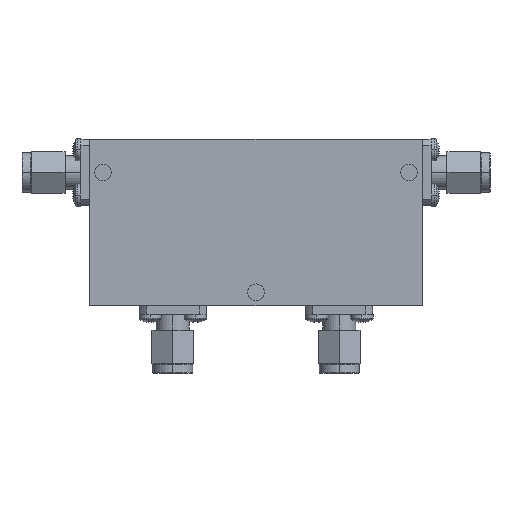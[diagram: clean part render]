
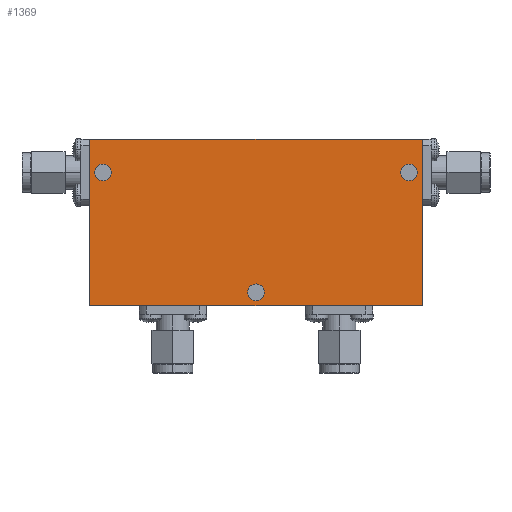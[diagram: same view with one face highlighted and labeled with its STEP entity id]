
A CAD part, top view. The second image highlights one B-rep face of the part: STEP entity #1369.
In plain terms, the highlighted planar face has unit normal (0, 0, 1).
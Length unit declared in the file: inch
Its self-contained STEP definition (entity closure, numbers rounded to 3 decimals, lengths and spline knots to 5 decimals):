
#67 = EDGE_CURVE ( 'NONE', #2055, #3254, #2197, .T. ) ;
#154 = DIRECTION ( 'NONE',  ( 0., 0., 1. ) ) ;
#159 = CARTESIAN_POINT ( 'NONE',  ( -1.25, 0.625, 0.35 ) ) ;
#160 = EDGE_CURVE ( 'NONE', #3124, #1362, #921, .T. ) ;
#162 = CARTESIAN_POINT ( 'NONE',  ( -1.15, 0.375, 0.35 ) ) ;
#227 = EDGE_CURVE ( 'NONE', #345, #2055, #2802, .T. ) ;
#339 = ORIENTED_EDGE ( 'NONE', *, *, #3095, .F. ) ;
#340 = CIRCLE ( 'NONE', #1740, 0.0625 ) ;
#345 = VERTEX_POINT ( 'NONE', #2765 ) ;
#360 = VERTEX_POINT ( 'NONE', #2000 ) ;
#437 = CARTESIAN_POINT ( 'NONE',  ( 1.15, 0.375, 0.35 ) ) ;
#452 = CARTESIAN_POINT ( 'NONE',  ( 1.2125, 0.375, 0.35 ) ) ;
#500 = DIRECTION ( 'NONE',  ( 0., -1., 0. ) ) ;
#599 = EDGE_CURVE ( 'NONE', #3080, #360, #340, .T. ) ;
#617 = LINE ( 'NONE', #905, #1152 ) ;
#702 = DIRECTION ( 'NONE',  ( 1., 0., 0. ) ) ;
#721 = DIRECTION ( 'NONE',  ( 1., 0., 0. ) ) ;
#743 = ORIENTED_EDGE ( 'NONE', *, *, #1676, .T. ) ;
#784 = CIRCLE ( 'NONE', #2621, 0.0625 ) ;
#853 = EDGE_CURVE ( 'NONE', #1362, #3124, #784, .T. ) ;
#881 = CARTESIAN_POINT ( 'NONE',  ( -1.15, 0.375, 0.35 ) ) ;
#892 = VERTEX_POINT ( 'NONE', #1526 ) ;
#904 = LINE ( 'NONE', #919, #2152 ) ;
#905 = CARTESIAN_POINT ( 'NONE',  ( -1.25, -0.625, 0.35 ) ) ;
#910 = AXIS2_PLACEMENT_3D ( 'NONE', #1474, #154, #702 ) ;
#915 = DIRECTION ( 'NONE',  ( -1., 0., 0. ) ) ;
#919 = CARTESIAN_POINT ( 'NONE',  ( 1.25, 0.625, 0.35 ) ) ;
#921 = CIRCLE ( 'NONE', #3246, 0.0625 ) ;
#986 = DIRECTION ( 'NONE',  ( 0., 0., 1. ) ) ;
#1001 = VECTOR ( 'NONE', #915, 39.37008 ) ;
#1065 = CARTESIAN_POINT ( 'NONE',  ( -1.25, 0.625, 0.35 ) ) ;
#1080 = ORIENTED_EDGE ( 'NONE', *, *, #853, .F. ) ;
#1114 = AXIS2_PLACEMENT_3D ( 'NONE', #3218, #2219, #3266 ) ;
#1152 = VECTOR ( 'NONE', #1652, 39.37008 ) ;
#1154 = VECTOR ( 'NONE', #500, 39.37008 ) ;
#1236 = FACE_BOUND ( 'NONE', #1237, .T. ) ;
#1237 = EDGE_LOOP ( 'NONE', ( #2606, #1080 ) ) ;
#1255 = EDGE_LOOP ( 'NONE', ( #743, #2449, #2734, #1838 ) ) ;
#1258 = EDGE_LOOP ( 'NONE', ( #2367, #1832 ) ) ;
#1270 = CARTESIAN_POINT ( 'NONE',  ( -1.0875, 0.375, 0.35 ) ) ;
#1282 = CARTESIAN_POINT ( 'NONE',  ( -1.25, -0.625, 0.35 ) ) ;
#1362 = VERTEX_POINT ( 'NONE', #3234 ) ;
#1369 = ADVANCED_FACE ( 'NONE', ( #1236, #2626, #1948, #1699 ), #2246, .T. ) ;
#1461 = DIRECTION ( 'NONE',  ( 1., 0., 0. ) ) ;
#1464 = CIRCLE ( 'NONE', #1749, 0.0625 ) ;
#1474 = CARTESIAN_POINT ( 'NONE',  ( 0., 0., 0.35 ) ) ;
#1485 = EDGE_LOOP ( 'NONE', ( #339, #2456 ) ) ;
#1526 = CARTESIAN_POINT ( 'NONE',  ( 1.25, -0.625, 0.35 ) ) ;
#1547 = EDGE_CURVE ( 'NONE', #3254, #892, #617, .T. ) ;
#1652 = DIRECTION ( 'NONE',  ( 1., 0., 0. ) ) ;
#1659 = DIRECTION ( 'NONE',  ( 1., 0., 0. ) ) ;
#1676 = EDGE_CURVE ( 'NONE', #892, #345, #904, .T. ) ;
#1699 = FACE_OUTER_BOUND ( 'NONE', #1255, .T. ) ;
#1730 = DIRECTION ( 'NONE',  ( 0., 0., 1. ) ) ;
#1734 = EDGE_CURVE ( 'NONE', #360, #3080, #2623, .T. ) ;
#1740 = AXIS2_PLACEMENT_3D ( 'NONE', #881, #2677, #1659 ) ;
#1743 = CARTESIAN_POINT ( 'NONE',  ( 0.0625, -0.525, 0.35 ) ) ;
#1749 = AXIS2_PLACEMENT_3D ( 'NONE', #3292, #1730, #2538 ) ;
#1756 = VERTEX_POINT ( 'NONE', #1978 ) ;
#1832 = ORIENTED_EDGE ( 'NONE', *, *, #1734, .F. ) ;
#1838 = ORIENTED_EDGE ( 'NONE', *, *, #1547, .T. ) ;
#1948 = FACE_BOUND ( 'NONE', #1258, .T. ) ;
#1978 = CARTESIAN_POINT ( 'NONE',  ( -0.0625, -0.525, 0.35 ) ) ;
#1998 = CARTESIAN_POINT ( 'NONE',  ( 1.15, 0.375, 0.35 ) ) ;
#2000 = CARTESIAN_POINT ( 'NONE',  ( -1.2125, 0.375, 0.35 ) ) ;
#2004 = DIRECTION ( 'NONE',  ( 0., 0., 1. ) ) ;
#2055 = VERTEX_POINT ( 'NONE', #2371 ) ;
#2152 = VECTOR ( 'NONE', #2682, 39.37008 ) ;
#2197 = LINE ( 'NONE', #1065, #1154 ) ;
#2215 = EDGE_CURVE ( 'NONE', #1756, #3103, #2984, .T. ) ;
#2219 = DIRECTION ( 'NONE',  ( 0., 0., 1. ) ) ;
#2246 = PLANE ( 'NONE',  #910 ) ;
#2270 = AXIS2_PLACEMENT_3D ( 'NONE', #162, #2004, #1461 ) ;
#2367 = ORIENTED_EDGE ( 'NONE', *, *, #599, .F. ) ;
#2371 = CARTESIAN_POINT ( 'NONE',  ( -1.25, 0.625, 0.35 ) ) ;
#2449 = ORIENTED_EDGE ( 'NONE', *, *, #227, .T. ) ;
#2456 = ORIENTED_EDGE ( 'NONE', *, *, #2215, .F. ) ;
#2538 = DIRECTION ( 'NONE',  ( 1., 0., 0. ) ) ;
#2606 = ORIENTED_EDGE ( 'NONE', *, *, #160, .F. ) ;
#2621 = AXIS2_PLACEMENT_3D ( 'NONE', #1998, #986, #721 ) ;
#2623 = CIRCLE ( 'NONE', #2270, 0.0625 ) ;
#2626 = FACE_BOUND ( 'NONE', #1485, .T. ) ;
#2677 = DIRECTION ( 'NONE',  ( 0., 0., 1. ) ) ;
#2682 = DIRECTION ( 'NONE',  ( 0., 1., 0. ) ) ;
#2734 = ORIENTED_EDGE ( 'NONE', *, *, #67, .T. ) ;
#2765 = CARTESIAN_POINT ( 'NONE',  ( 1.25, 0.625, 0.35 ) ) ;
#2802 = LINE ( 'NONE', #159, #1001 ) ;
#2984 = CIRCLE ( 'NONE', #1114, 0.0625 ) ;
#3080 = VERTEX_POINT ( 'NONE', #1270 ) ;
#3095 = EDGE_CURVE ( 'NONE', #3103, #1756, #1464, .T. ) ;
#3103 = VERTEX_POINT ( 'NONE', #1743 ) ;
#3124 = VERTEX_POINT ( 'NONE', #452 ) ;
#3218 = CARTESIAN_POINT ( 'NONE',  ( 0., -0.525, 0.35 ) ) ;
#3234 = CARTESIAN_POINT ( 'NONE',  ( 1.0875, 0.375, 0.35 ) ) ;
#3239 = DIRECTION ( 'NONE',  ( 1., 0., 0. ) ) ;
#3246 = AXIS2_PLACEMENT_3D ( 'NONE', #437, #3265, #3239 ) ;
#3254 = VERTEX_POINT ( 'NONE', #1282 ) ;
#3265 = DIRECTION ( 'NONE',  ( 0., 0., 1. ) ) ;
#3266 = DIRECTION ( 'NONE',  ( 1., 0., 0. ) ) ;
#3292 = CARTESIAN_POINT ( 'NONE',  ( 0., -0.525, 0.35 ) ) ;
